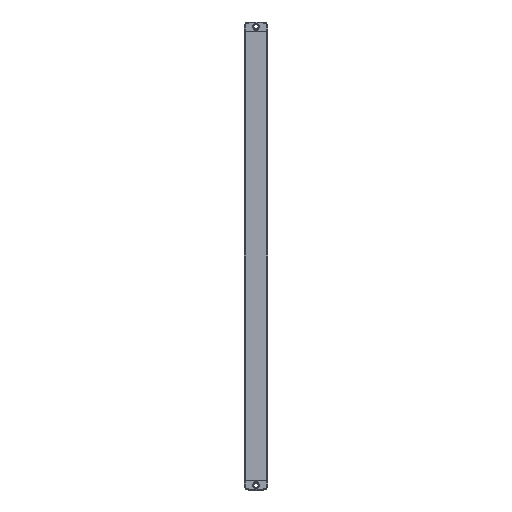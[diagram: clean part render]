
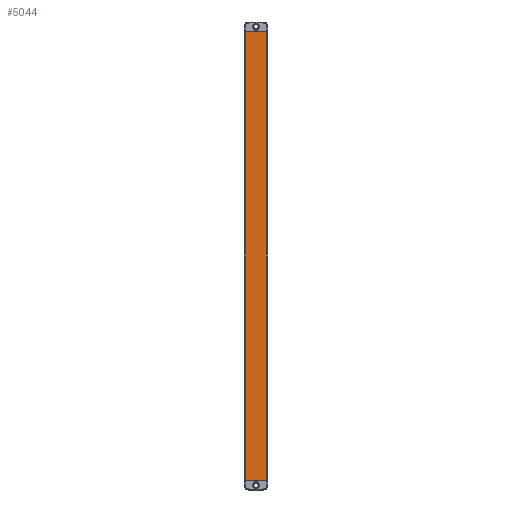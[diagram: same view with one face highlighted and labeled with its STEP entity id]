
A CAD part, front view. The second image highlights one B-rep face of the part: STEP entity #5044.
In plain terms, the highlighted planar face has unit normal (0, -1, 0).
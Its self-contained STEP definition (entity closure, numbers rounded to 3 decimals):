
#202 = EDGE_CURVE ( 'NONE', #10374, #1864, #3637, .T. ) ;
#493 = DIRECTION ( 'NONE',  ( 1., 0., 0. ) ) ;
#615 = ORIENTED_EDGE ( 'NONE', *, *, #1650, .F. ) ;
#927 = CARTESIAN_POINT ( 'NONE',  ( -0.005, -6., 470. ) ) ;
#1650 = EDGE_CURVE ( 'NONE', #8884, #1864, #7538, .T. ) ;
#1864 = VERTEX_POINT ( 'NONE', #7312 ) ;
#2009 = CARTESIAN_POINT ( 'NONE',  ( -11.5, -6., 470. ) ) ;
#3130 = DIRECTION ( 'NONE',  ( 0., 0., -1. ) ) ;
#3178 = EDGE_CURVE ( 'NONE', #9542, #10374, #9938, .T. ) ;
#3629 = VECTOR ( 'NONE', #3130, 1000. ) ;
#3634 = EDGE_CURVE ( 'NONE', #9542, #8884, #4900, .T. ) ;
#3637 = LINE ( 'NONE', #7181, #9989 ) ;
#4459 = DIRECTION ( 'NONE',  ( 0., 1., 0. ) ) ;
#4538 = VECTOR ( 'NONE', #493, 1000. ) ;
#4900 = LINE ( 'NONE', #8433, #4538 ) ;
#5044 = ADVANCED_FACE ( 'NONE', ( #5331 ), #8863, .F. ) ;
#5331 = FACE_OUTER_BOUND ( 'NONE', #9899, .T. ) ;
#5532 = DIRECTION ( 'NONE',  ( 0., 0., -1. ) ) ;
#6103 = ORIENTED_EDGE ( 'NONE', *, *, #3178, .T. ) ;
#6763 = CARTESIAN_POINT ( 'NONE',  ( 11.5, -6., 470. ) ) ;
#7157 = AXIS2_PLACEMENT_3D ( 'NONE', #927, #4459, #8001 ) ;
#7181 = CARTESIAN_POINT ( 'NONE',  ( -0.005, -6., 0. ) ) ;
#7205 = CARTESIAN_POINT ( 'NONE',  ( -11.5, -6., 470. ) ) ;
#7312 = CARTESIAN_POINT ( 'NONE',  ( 11.5, -6., 0. ) ) ;
#7488 = VECTOR ( 'NONE', #5532, 1000. ) ;
#7538 = LINE ( 'NONE', #11081, #3629 ) ;
#8001 = DIRECTION ( 'NONE',  ( 0., 0., 1. ) ) ;
#8433 = CARTESIAN_POINT ( 'NONE',  ( -11.5, -6., 470. ) ) ;
#8863 = PLANE ( 'NONE',  #7157 ) ;
#8884 = VERTEX_POINT ( 'NONE', #6763 ) ;
#9542 = VERTEX_POINT ( 'NONE', #7205 ) ;
#9718 = CARTESIAN_POINT ( 'NONE',  ( -11.5, -6., 0. ) ) ;
#9899 = EDGE_LOOP ( 'NONE', ( #10952, #615, #10030, #6103 ) ) ;
#9938 = LINE ( 'NONE', #2009, #7488 ) ;
#9989 = VECTOR ( 'NONE', #10724, 1000. ) ;
#10030 = ORIENTED_EDGE ( 'NONE', *, *, #3634, .F. ) ;
#10374 = VERTEX_POINT ( 'NONE', #9718 ) ;
#10724 = DIRECTION ( 'NONE',  ( 1., 0., 0. ) ) ;
#10952 = ORIENTED_EDGE ( 'NONE', *, *, #202, .T. ) ;
#11081 = CARTESIAN_POINT ( 'NONE',  ( 11.5, -6., 470. ) ) ;
